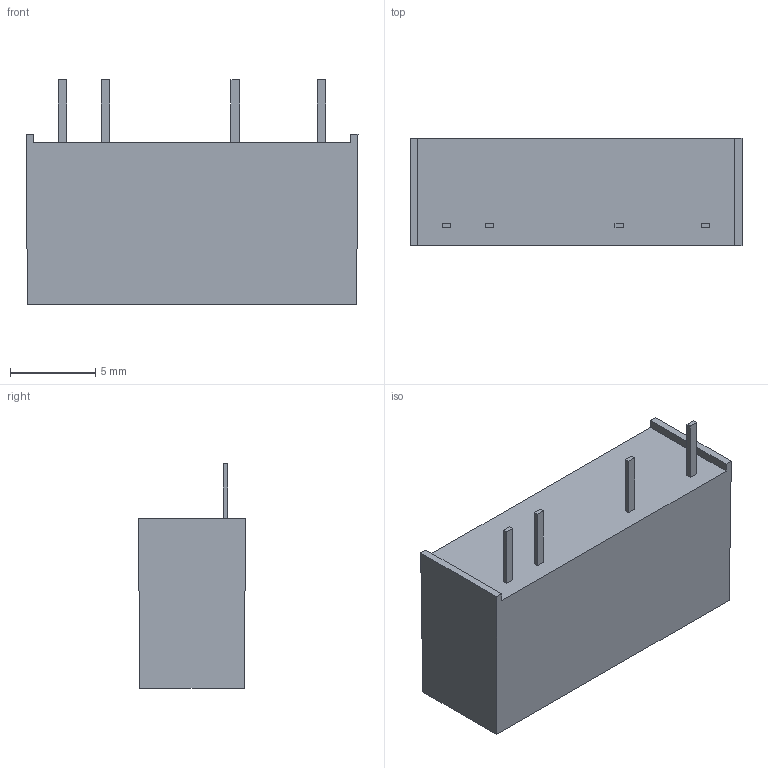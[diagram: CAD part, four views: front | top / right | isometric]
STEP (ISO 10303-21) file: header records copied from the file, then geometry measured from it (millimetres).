
FILE_DESCRIPTION(/* description */ (''),/* implementation_level */ '2;1');
FILE_NAME(/* name */ 'C:\Users\CALLIOPE\Documents\Inventor\mau100.200\3D\X2\5C3A5BF8591689C0\X0\\型錄用-STEP檔\MA01H(5V&12V).stp',/* time_stamp */ '2015-03-13T08:25:06+08:00',/* author */ ('CALLIOPE'),/* organization */ (''),/* preprocessor_version */ 'ST-DEVELOPER v15.6',/* originating_system */ 'Autodesk Inventor 2015',/* authorisation */ '');
FILE_SCHEMA (('AUTOMOTIVE_DESIGN { 1 0 10303 214 3 1 1 }'));
Length unit declared in the file: millimetre
Products named in the file (1): MA01H(5V&12V)
Bounding box: 19.5 x 6.3 x 13.2 mm (x, y, z)
Volume: 1149.2 mm3; surface area: 763.4 mm2
Topology: 1 solids, 1 shells, 30 faces, 72 edges, 48 vertices
Faces by surface type: plane 30
Entity records: 880 total; most frequent: CARTESIAN_POINT 151, ORIENTED_EDGE 144, DIRECTION 134, LINE 72, VECTOR 72, EDGE_CURVE 72, VERTEX_POINT 48, EDGE_LOOP 34
